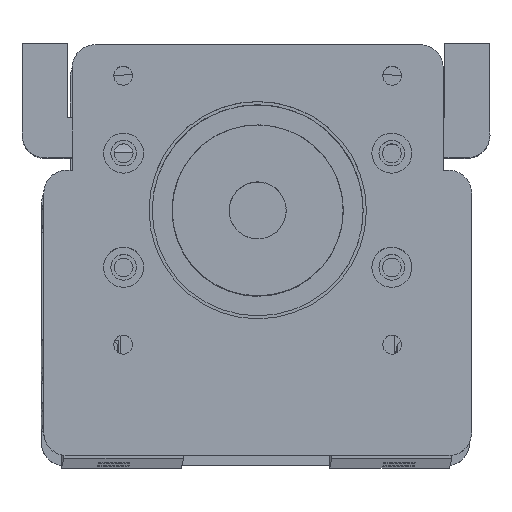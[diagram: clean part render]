
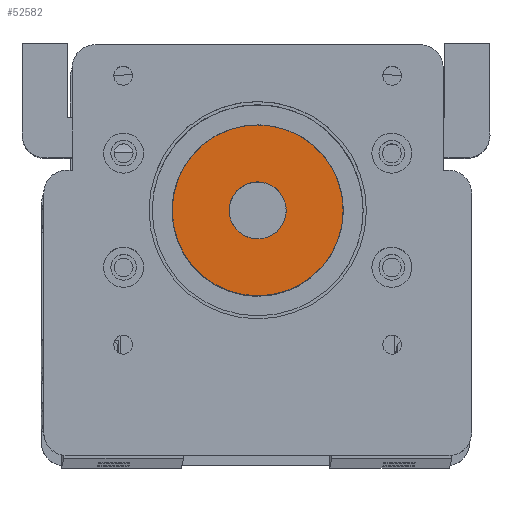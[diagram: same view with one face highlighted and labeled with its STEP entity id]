
A CAD part, top view. The second image highlights one B-rep face of the part: STEP entity #52582.
In plain terms, the highlighted planar face has unit normal (0, 0, 1).
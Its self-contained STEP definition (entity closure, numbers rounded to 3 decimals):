
#380 = VERTEX_POINT ( 'NONE', #19477 ) ;
#966 = DIRECTION ( 'NONE',  ( 1., 0., 0. ) ) ;
#4990 = FACE_OUTER_BOUND ( 'NONE', #49794, .T. ) ;
#5351 = VERTEX_POINT ( 'NONE', #49277 ) ;
#6869 = EDGE_CURVE ( 'NONE', #5351, #380, #45232, .T. ) ;
#7217 = CARTESIAN_POINT ( 'NONE',  ( -6.16, 0., 40.753 ) ) ;
#10915 = CIRCLE ( 'NONE', #28417, 14.978 ) ;
#11492 = DIRECTION ( 'NONE',  ( 1., 0., 0. ) ) ;
#11632 = EDGE_CURVE ( 'NONE', #46628, #26615, #10915, .T. ) ;
#16456 = CARTESIAN_POINT ( 'NONE',  ( -21.138, 0., 40.753 ) ) ;
#18140 = DIRECTION ( 'NONE',  ( 0., 0., 1. ) ) ;
#19130 = CIRCLE ( 'NONE', #51205, 14.978 ) ;
#19395 = DIRECTION ( 'NONE',  ( 0., 0., 1. ) ) ;
#19477 = CARTESIAN_POINT ( 'NONE',  ( -11.163, 0., 40.753 ) ) ;
#20164 = CARTESIAN_POINT ( 'NONE',  ( -6.16, 0., 40.753 ) ) ;
#22509 = EDGE_CURVE ( 'NONE', #26615, #46628, #19130, .T. ) ;
#23627 = EDGE_LOOP ( 'NONE', ( #33212, #24388 ) ) ;
#24388 = ORIENTED_EDGE ( 'NONE', *, *, #6869, .F. ) ;
#24425 = DIRECTION ( 'NONE',  ( 1., 0., 0. ) ) ;
#26266 = FACE_BOUND ( 'NONE', #23627, .T. ) ;
#26451 = DIRECTION ( 'NONE',  ( 0., 0., 1. ) ) ;
#26615 = VERTEX_POINT ( 'NONE', #16456 ) ;
#28417 = AXIS2_PLACEMENT_3D ( 'NONE', #43608, #18140, #47876 ) ;
#29562 = ORIENTED_EDGE ( 'NONE', *, *, #11632, .T. ) ;
#33212 = ORIENTED_EDGE ( 'NONE', *, *, #48113, .F. ) ;
#36314 = CARTESIAN_POINT ( 'NONE',  ( -6.16, 0., 40.753 ) ) ;
#36982 = DIRECTION ( 'NONE',  ( 0., 0., 1. ) ) ;
#37426 = ORIENTED_EDGE ( 'NONE', *, *, #22509, .T. ) ;
#40500 = AXIS2_PLACEMENT_3D ( 'NONE', #7217, #36982, #11492 ) ;
#41411 = AXIS2_PLACEMENT_3D ( 'NONE', #36314, #19395, #49129 ) ;
#43608 = CARTESIAN_POINT ( 'NONE',  ( -6.16, 0., 40.753 ) ) ;
#44860 = PLANE ( 'NONE',  #41411 ) ;
#45232 = CIRCLE ( 'NONE', #50307, 5.003 ) ;
#46628 = VERTEX_POINT ( 'NONE', #49006 ) ;
#47876 = DIRECTION ( 'NONE',  ( 1., 0., 0. ) ) ;
#48113 = EDGE_CURVE ( 'NONE', #380, #5351, #49092, .T. ) ;
#49006 = CARTESIAN_POINT ( 'NONE',  ( 8.817, 0., 40.753 ) ) ;
#49092 = CIRCLE ( 'NONE', #40500, 5.003 ) ;
#49129 = DIRECTION ( 'NONE',  ( 1., 0., 0. ) ) ;
#49277 = CARTESIAN_POINT ( 'NONE',  ( -1.157, 0., 40.753 ) ) ;
#49794 = EDGE_LOOP ( 'NONE', ( #37426, #29562 ) ) ;
#49901 = DIRECTION ( 'NONE',  ( 0., 0., 1. ) ) ;
#50307 = AXIS2_PLACEMENT_3D ( 'NONE', #51906, #26451, #966 ) ;
#51205 = AXIS2_PLACEMENT_3D ( 'NONE', #20164, #49901, #24425 ) ;
#51906 = CARTESIAN_POINT ( 'NONE',  ( -6.16, 0., 40.753 ) ) ;
#52582 = ADVANCED_FACE ( 'NONE', ( #4990, #26266 ), #44860, .T. ) ;
